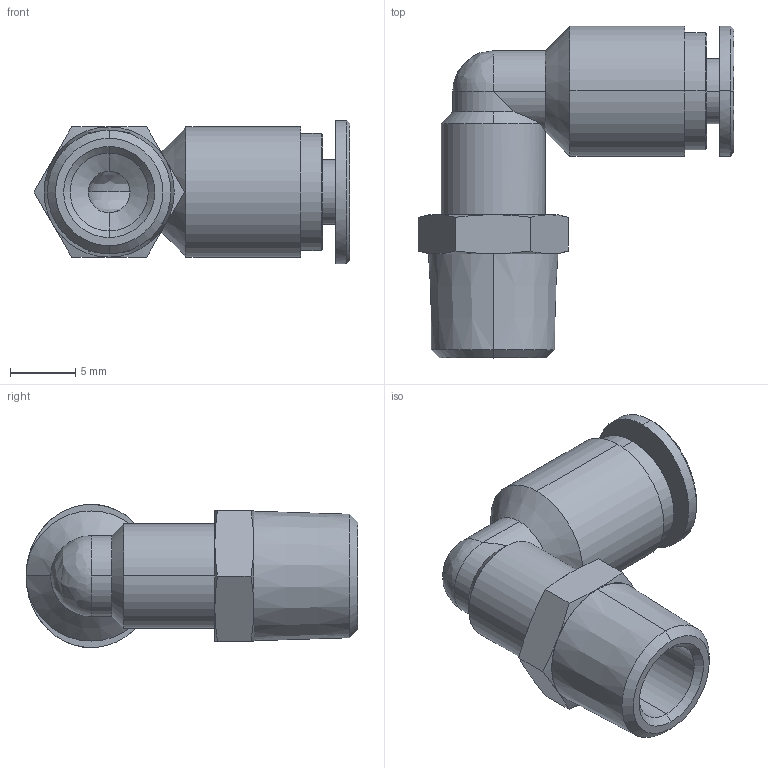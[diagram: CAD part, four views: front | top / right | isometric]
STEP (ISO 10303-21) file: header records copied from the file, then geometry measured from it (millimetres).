
FILE_DESCRIPTION (( 'STEP AP214' ), '1' );
FILE_NAME ('KQ2L04-01AS.STEP', '2023-03-06T09:58:15', ( 'Windows User' ), ( 'P R C' ), 'SwSTEP 2.0', 'SolidWorks 2019', '' );
FILE_SCHEMA (( 'AUTOMOTIVE_DESIGN' ));
Length unit declared in the file: millimetre
Products named in the file (1): KQ2L04-01AS
Bounding box: 24.27 x 25.5 x 11 mm (x, y, z)
Volume: 1870 mm3; surface area: 1852.3 mm2
Topology: 1 solids, 1 shells, 70 faces, 158 edges, 95 vertices
Faces by surface type: cone 28, cylinder 21, plane 14, bspline 7
Entity records: 4310 total; most frequent: CARTESIAN_POINT 2759, DIRECTION 322, ORIENTED_EDGE 314, EDGE_CURVE 157, AXIS2_PLACEMENT_3D 140, VERTEX_POINT 95, EDGE_LOOP 78, CIRCLE 76
